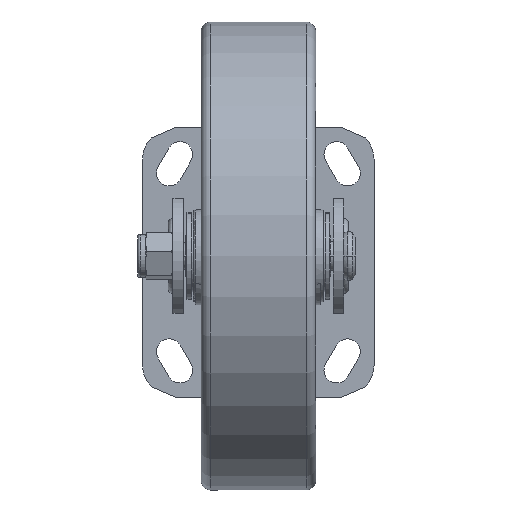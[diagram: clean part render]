
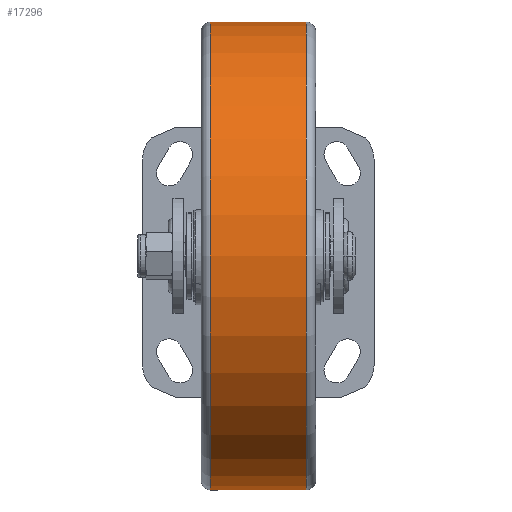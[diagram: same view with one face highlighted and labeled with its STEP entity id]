
A CAD part, front view. The second image highlights one B-rep face of the part: STEP entity #17296.
In plain terms, the highlighted cylindrical face has radius 100 mm (diameter 200 mm), a partial arc.
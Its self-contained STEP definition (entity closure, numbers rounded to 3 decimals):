
#400 = ORIENTED_EDGE ( 'NONE', *, *, #19952, .T. ) ;
#566 = ORIENTED_EDGE ( 'NONE', *, *, #12327, .F. ) ;
#1395 = DIRECTION ( 'NONE',  ( -1., 0., 0. ) ) ;
#1872 = FACE_OUTER_BOUND ( 'NONE', #6142, .T. ) ;
#2499 = CARTESIAN_POINT ( 'NONE',  ( -34.588, -138.7, -97.279 ) ) ;
#3063 = DIRECTION ( 'NONE',  ( -1., 0., 0. ) ) ;
#3928 = CARTESIAN_POINT ( 'NONE',  ( 20.5, -138.7, 2.721 ) ) ;
#5745 = VERTEX_POINT ( 'NONE', #23200 ) ;
#6142 = EDGE_LOOP ( 'NONE', ( #400, #17836, #16198, #566 ) ) ;
#6656 = CARTESIAN_POINT ( 'NONE',  ( 20.5, -138.7, 102.721 ) ) ;
#8835 = EDGE_CURVE ( 'NONE', #10264, #5745, #18291, .T. ) ;
#9426 = CYLINDRICAL_SURFACE ( 'NONE', #21552, 100. ) ;
#9912 = CIRCLE ( 'NONE', #18173, 100. ) ;
#10046 = DIRECTION ( 'NONE',  ( -1., 0., 0. ) ) ;
#10167 = LINE ( 'NONE', #2499, #24171 ) ;
#10256 = CARTESIAN_POINT ( 'NONE',  ( -34.588, -138.7, 2.721 ) ) ;
#10264 = VERTEX_POINT ( 'NONE', #6656 ) ;
#11336 = VECTOR ( 'NONE', #1395, 1000. ) ;
#11844 = DIRECTION ( 'NONE',  ( -1., 0., 0. ) ) ;
#12327 = EDGE_CURVE ( 'NONE', #17553, #24206, #10167, .T. ) ;
#15650 = DIRECTION ( 'NONE',  ( 0., 0., -1. ) ) ;
#16198 = ORIENTED_EDGE ( 'NONE', *, *, #22036, .F. ) ;
#17122 = DIRECTION ( 'NONE',  ( -1., 0., 0. ) ) ;
#17296 = ADVANCED_FACE ( 'NONE', ( #1872 ), #9426, .T. ) ;
#17351 = AXIS2_PLACEMENT_3D ( 'NONE', #20453, #3063, #18477 ) ;
#17553 = VERTEX_POINT ( 'NONE', #20588 ) ;
#17836 = ORIENTED_EDGE ( 'NONE', *, *, #8835, .T. ) ;
#18173 = AXIS2_PLACEMENT_3D ( 'NONE', #3928, #17122, #20587 ) ;
#18291 = LINE ( 'NONE', #23843, #11336 ) ;
#18477 = DIRECTION ( 'NONE',  ( 0., 0., -1. ) ) ;
#19616 = CARTESIAN_POINT ( 'NONE',  ( -20.5, -138.7, -97.279 ) ) ;
#19740 = CIRCLE ( 'NONE', #17351, 100. ) ;
#19952 = EDGE_CURVE ( 'NONE', #17553, #10264, #9912, .T. ) ;
#20453 = CARTESIAN_POINT ( 'NONE',  ( -20.5, -138.7, 2.721 ) ) ;
#20587 = DIRECTION ( 'NONE',  ( 0., 0., -1. ) ) ;
#20588 = CARTESIAN_POINT ( 'NONE',  ( 20.5, -138.7, -97.279 ) ) ;
#21552 = AXIS2_PLACEMENT_3D ( 'NONE', #10256, #11844, #15650 ) ;
#22036 = EDGE_CURVE ( 'NONE', #24206, #5745, #19740, .T. ) ;
#23200 = CARTESIAN_POINT ( 'NONE',  ( -20.5, -138.7, 102.721 ) ) ;
#23843 = CARTESIAN_POINT ( 'NONE',  ( -34.588, -138.7, 102.721 ) ) ;
#24171 = VECTOR ( 'NONE', #10046, 1000. ) ;
#24206 = VERTEX_POINT ( 'NONE', #19616 ) ;
